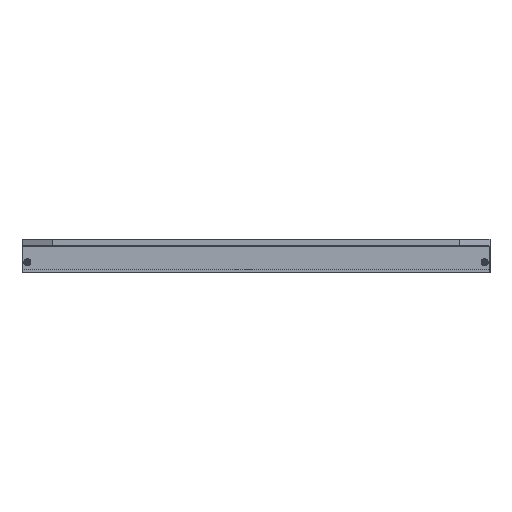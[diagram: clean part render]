
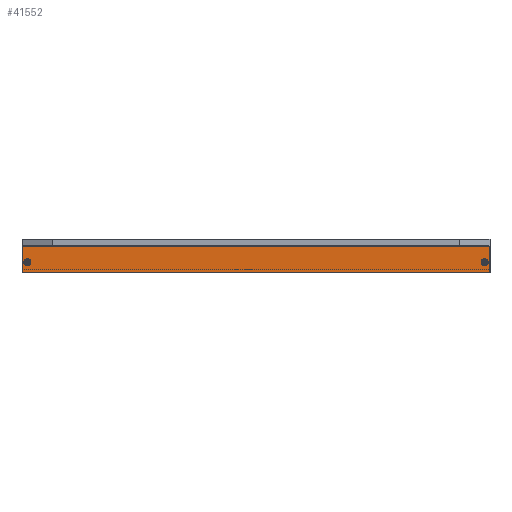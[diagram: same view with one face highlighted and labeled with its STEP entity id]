
A CAD part, front view. The second image highlights one B-rep face of the part: STEP entity #41552.
In plain terms, the highlighted planar face has unit normal (0, -1, 0).
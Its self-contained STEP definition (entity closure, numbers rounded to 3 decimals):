
#7739=DIRECTION('',(-1.,0.,0.));
#7740=VECTOR('',#7739,262.6);
#7741=CARTESIAN_POINT('',(131.3,-131.5,0.));
#7742=LINE('',#7741,#7740);
#11975=DIRECTION('',(0.,0.,-1.));
#11976=VECTOR('',#11975,14.8);
#11977=CARTESIAN_POINT('',(131.3,-131.5,0.));
#11978=LINE('',#11977,#11976);
#11979=CARTESIAN_POINT('',(-128.5,-131.5,-9.));
#11980=DIRECTION('',(0.,1.,0.));
#11981=DIRECTION('',(0.,0.,1.));
#11982=AXIS2_PLACEMENT_3D('',#11979,#11980,#11981);
#11984=CARTESIAN_POINT('',(-128.5,-131.5,-9.));
#11985=DIRECTION('',(0.,1.,0.));
#11986=DIRECTION('',(0.,0.,-1.));
#11987=AXIS2_PLACEMENT_3D('',#11984,#11985,#11986);
#11989=CARTESIAN_POINT('',(128.5,-131.5,-9.));
#11990=DIRECTION('',(0.,1.,0.));
#11991=DIRECTION('',(0.,0.,-1.));
#11992=AXIS2_PLACEMENT_3D('',#11989,#11990,#11991);
#11994=CARTESIAN_POINT('',(128.5,-131.5,-9.));
#11995=DIRECTION('',(0.,1.,0.));
#11996=DIRECTION('',(0.,0.,1.));
#11997=AXIS2_PLACEMENT_3D('',#11994,#11995,#11996);
#11999=DIRECTION('',(1.,0.,0.));
#12000=VECTOR('',#11999,262.6);
#12001=CARTESIAN_POINT('',(-131.3,-131.5,-14.8));
#12002=LINE('',#12001,#12000);
#12003=DIRECTION('',(0.,0.,-1.));
#12004=VECTOR('',#12003,14.8);
#12005=CARTESIAN_POINT('',(-131.3,-131.5,0.));
#12006=LINE('',#12005,#12004);
#19209=CARTESIAN_POINT('',(-131.3,-131.5,-14.8));
#19210=VERTEX_POINT('',#19209);
#19217=CARTESIAN_POINT('',(131.3,-131.5,-14.8));
#19218=VERTEX_POINT('',#19217);
#19219=CARTESIAN_POINT('',(128.5,-131.5,-7.));
#19220=CARTESIAN_POINT('',(128.5,-131.5,-11.));
#19221=VERTEX_POINT('',#19219);
#19222=VERTEX_POINT('',#19220);
#19223=CARTESIAN_POINT('',(-128.5,-131.5,-11.));
#19224=CARTESIAN_POINT('',(-128.5,-131.5,-7.));
#19225=VERTEX_POINT('',#19223);
#19226=VERTEX_POINT('',#19224);
#23221=CARTESIAN_POINT('',(-131.3,-131.5,0.));
#23223=VERTEX_POINT('',#23221);
#23224=CARTESIAN_POINT('',(131.3,-131.5,0.));
#23225=VERTEX_POINT('',#23224);
#41528=CARTESIAN_POINT('',(-131.5,-131.5,-15.));
#41529=DIRECTION('',(0.,-1.,0.));
#41530=DIRECTION('',(0.,0.,1.));
#41531=AXIS2_PLACEMENT_3D('',#41528,#41529,#41530);
#41532=PLANE('',#41531);
#41533=ORIENTED_EDGE('',*,*,#41523,.T.);
#41534=ORIENTED_EDGE('',*,*,#41493,.F.);
#41536=ORIENTED_EDGE('',*,*,#41535,.F.);
#41537=ORIENTED_EDGE('',*,*,#35195,.F.);
#41538=EDGE_LOOP('',(#41533,#41534,#41536,#41537));
#41539=FACE_OUTER_BOUND('',#41538,.F.);
#41541=ORIENTED_EDGE('',*,*,#41540,.F.);
#41543=ORIENTED_EDGE('',*,*,#41542,.F.);
#41544=EDGE_LOOP('',(#41541,#41543));
#41545=FACE_BOUND('',#41544,.F.);
#41547=ORIENTED_EDGE('',*,*,#41546,.F.);
#41549=ORIENTED_EDGE('',*,*,#41548,.F.);
#41550=EDGE_LOOP('',(#41547,#41549));
#41551=FACE_BOUND('',#41550,.F.);
#11983=CIRCLE('',#11982,2.);
#11988=CIRCLE('',#11987,2.);
#11993=CIRCLE('',#11992,2.);
#11998=CIRCLE('',#11997,2.);
#35195=EDGE_CURVE('',#23225,#23223,#7742,.T.);
#41493=EDGE_CURVE('',#19210,#19218,#12002,.T.);
#41523=EDGE_CURVE('',#23225,#19218,#11978,.T.);
#41535=EDGE_CURVE('',#23223,#19210,#12006,.T.);
#41540=EDGE_CURVE('',#19222,#19221,#11993,.T.);
#41542=EDGE_CURVE('',#19221,#19222,#11998,.T.);
#41546=EDGE_CURVE('',#19226,#19225,#11983,.T.);
#41548=EDGE_CURVE('',#19225,#19226,#11988,.T.);
#41552=ADVANCED_FACE('',(#41539,#41545,#41551),#41532,.T.);
